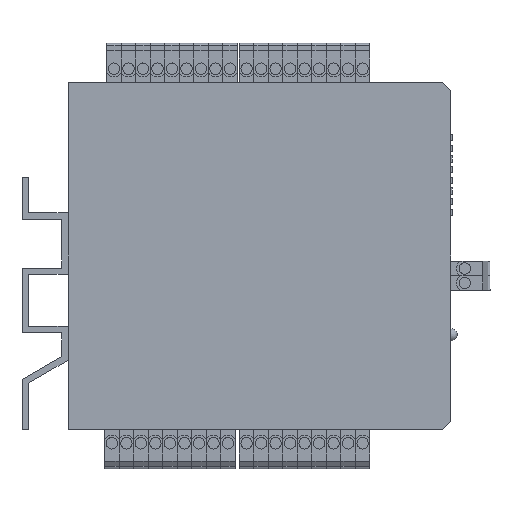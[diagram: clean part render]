
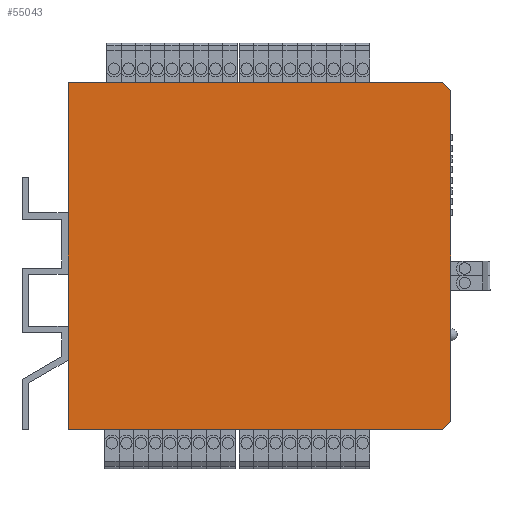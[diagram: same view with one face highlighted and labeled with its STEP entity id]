
A CAD part, left-side view. The second image highlights one B-rep face of the part: STEP entity #55043.
In plain terms, the highlighted planar face has unit normal (-1, 0, 0).
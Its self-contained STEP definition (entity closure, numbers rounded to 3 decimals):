
#5055 = CARTESIAN_POINT ( 'NONE',  ( -11.25, 0., -41.25 ) ) ;
#5712 = CARTESIAN_POINT ( 'NONE',  ( -11.25, -45.5, 39.25 ) ) ;
#6371 = ORIENTED_EDGE ( 'NONE', *, *, #14050, .T. ) ;
#8195 = AXIS2_PLACEMENT_3D ( 'NONE', #44230, #10939, #49773 ) ;
#10144 = ORIENTED_EDGE ( 'NONE', *, *, #54329, .T. ) ;
#10658 = DIRECTION ( 'NONE',  ( 0., -1., 0. ) ) ;
#10939 = DIRECTION ( 'NONE',  ( -1., 0., 0. ) ) ;
#13914 = DIRECTION ( 'NONE',  ( 0., 0., 1. ) ) ;
#14050 = EDGE_CURVE ( 'NONE', #19184, #58509, #42605, .T. ) ;
#15053 = DIRECTION ( 'NONE',  ( 0., -0.707, 0.707 ) ) ;
#15300 = CARTESIAN_POINT ( 'NONE',  ( -11.25, -43.5, -41.25 ) ) ;
#16035 = PLANE ( 'NONE',  #8195 ) ;
#16299 = EDGE_CURVE ( 'NONE', #17008, #36155, #54830, .T. ) ;
#17008 = VERTEX_POINT ( 'NONE', #5712 ) ;
#18757 = DIRECTION ( 'NONE',  ( 0., 0.707, 0.707 ) ) ;
#18972 = CARTESIAN_POINT ( 'NONE',  ( -11.25, 0., 41.25 ) ) ;
#19166 = CARTESIAN_POINT ( 'NONE',  ( -11.25, -45.5, 39.25 ) ) ;
#19184 = VERTEX_POINT ( 'NONE', #32812 ) ;
#20198 = CARTESIAN_POINT ( 'NONE',  ( -11.25, -43.5, 41.25 ) ) ;
#26470 = ORIENTED_EDGE ( 'NONE', *, *, #31347, .T. ) ;
#26579 = DIRECTION ( 'NONE',  ( 0., 0., -1. ) ) ;
#27977 = LINE ( 'NONE', #47216, #57427 ) ;
#31347 = EDGE_CURVE ( 'NONE', #71654, #19184, #70052, .T. ) ;
#31417 = CARTESIAN_POINT ( 'NONE',  ( -11.25, 45.5, -41.25 ) ) ;
#32411 = CARTESIAN_POINT ( 'NONE',  ( -11.25, -45.5, -39.25 ) ) ;
#32810 = CARTESIAN_POINT ( 'NONE',  ( -11.25, 45.5, 41.25 ) ) ;
#32812 = CARTESIAN_POINT ( 'NONE',  ( -11.25, -43.5, -41.25 ) ) ;
#36155 = VERTEX_POINT ( 'NONE', #20198 ) ;
#36954 = LINE ( 'NONE', #54180, #48238 ) ;
#38070 = LINE ( 'NONE', #18972, #67551 ) ;
#40635 = VECTOR ( 'NONE', #10658, 1000. ) ;
#40691 = EDGE_CURVE ( 'NONE', #36155, #69981, #38070, .T. ) ;
#41741 = FACE_OUTER_BOUND ( 'NONE', #55774, .T. ) ;
#42605 = LINE ( 'NONE', #15300, #55554 ) ;
#44230 = CARTESIAN_POINT ( 'NONE',  ( -11.25, 0., -41.25 ) ) ;
#47216 = CARTESIAN_POINT ( 'NONE',  ( -11.25, -45.5, -41.25 ) ) ;
#48238 = VECTOR ( 'NONE', #26579, 1000. ) ;
#49773 = DIRECTION ( 'NONE',  ( 0., 0., 1. ) ) ;
#50021 = ORIENTED_EDGE ( 'NONE', *, *, #40691, .T. ) ;
#52196 = DIRECTION ( 'NONE',  ( 0., 1., 0. ) ) ;
#54180 = CARTESIAN_POINT ( 'NONE',  ( -11.25, 45.5, -41.25 ) ) ;
#54329 = EDGE_CURVE ( 'NONE', #58509, #17008, #27977, .T. ) ;
#54830 = LINE ( 'NONE', #19166, #67822 ) ;
#55043 = ADVANCED_FACE ( 'NONE', ( #41741 ), #16035, .T. ) ;
#55554 = VECTOR ( 'NONE', #15053, 1000. ) ;
#55774 = EDGE_LOOP ( 'NONE', ( #65357, #26470, #6371, #10144, #64960, #50021 ) ) ;
#57427 = VECTOR ( 'NONE', #13914, 1000. ) ;
#58509 = VERTEX_POINT ( 'NONE', #32411 ) ;
#59229 = EDGE_CURVE ( 'NONE', #69981, #71654, #36954, .T. ) ;
#64960 = ORIENTED_EDGE ( 'NONE', *, *, #16299, .T. ) ;
#65357 = ORIENTED_EDGE ( 'NONE', *, *, #59229, .T. ) ;
#67551 = VECTOR ( 'NONE', #52196, 1000. ) ;
#67822 = VECTOR ( 'NONE', #18757, 1000. ) ;
#69981 = VERTEX_POINT ( 'NONE', #32810 ) ;
#70052 = LINE ( 'NONE', #5055, #40635 ) ;
#71654 = VERTEX_POINT ( 'NONE', #31417 ) ;
